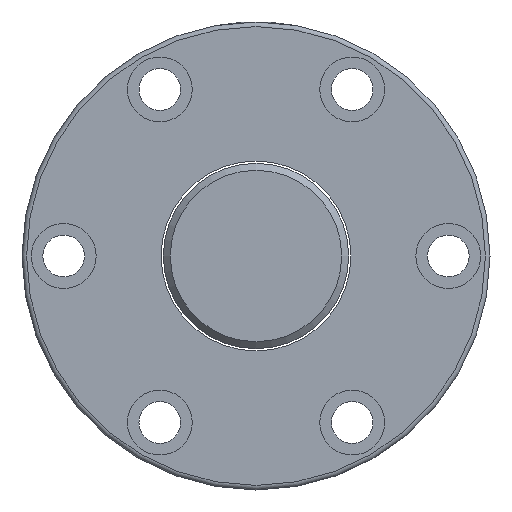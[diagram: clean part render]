
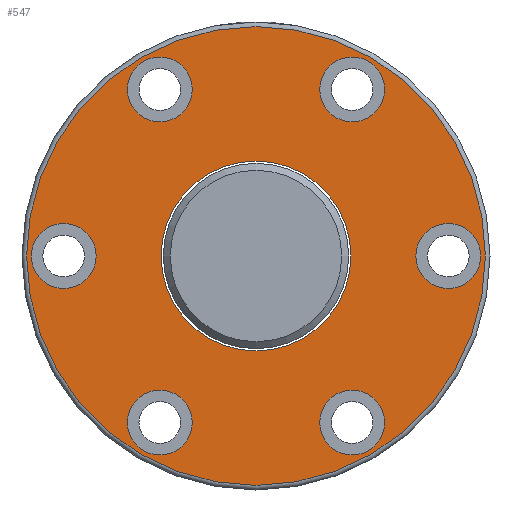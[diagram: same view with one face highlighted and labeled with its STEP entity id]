
A CAD part, left-side view. The second image highlights one B-rep face of the part: STEP entity #547.
In plain terms, the highlighted planar face has unit normal (-1, 0, 0).
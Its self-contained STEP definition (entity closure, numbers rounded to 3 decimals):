
#67=PLANE('',#647);
#139=ORIENTED_EDGE('',*,*,#222,.T.);
#140=ORIENTED_EDGE('',*,*,#215,.T.);
#141=ORIENTED_EDGE('',*,*,#211,.T.);
#142=ORIENTED_EDGE('',*,*,#207,.T.);
#143=ORIENTED_EDGE('',*,*,#203,.T.);
#144=ORIENTED_EDGE('',*,*,#199,.T.);
#145=ORIENTED_EDGE('',*,*,#195,.T.);
#146=ORIENTED_EDGE('',*,*,#223,.F.);
#195=EDGE_CURVE('',#248,#248,#292,.T.);
#199=EDGE_CURVE('',#252,#252,#296,.T.);
#203=EDGE_CURVE('',#256,#256,#300,.T.);
#207=EDGE_CURVE('',#260,#260,#304,.T.);
#211=EDGE_CURVE('',#264,#264,#308,.T.);
#215=EDGE_CURVE('',#268,#268,#312,.T.);
#222=EDGE_CURVE('',#275,#275,#319,.T.);
#223=EDGE_CURVE('',#276,#276,#320,.T.);
#248=VERTEX_POINT('',#884);
#252=VERTEX_POINT('',#895);
#256=VERTEX_POINT('',#906);
#260=VERTEX_POINT('',#917);
#264=VERTEX_POINT('',#928);
#268=VERTEX_POINT('',#939);
#275=VERTEX_POINT('',#959);
#276=VERTEX_POINT('',#962);
#292=CIRCLE('',#598,7.);
#296=CIRCLE('',#605,7.);
#300=CIRCLE('',#612,7.);
#304=CIRCLE('',#619,7.);
#308=CIRCLE('',#626,7.);
#312=CIRCLE('',#633,7.);
#319=CIRCLE('',#646,49.5);
#320=CIRCLE('',#648,20.5);
#384=EDGE_LOOP('',(#139));
#385=EDGE_LOOP('',(#140));
#386=EDGE_LOOP('',(#141));
#387=EDGE_LOOP('',(#142));
#388=EDGE_LOOP('',(#143));
#389=EDGE_LOOP('',(#144));
#390=EDGE_LOOP('',(#145));
#391=EDGE_LOOP('',(#146));
#471=FACE_BOUND('',#384,.T.);
#472=FACE_BOUND('',#385,.T.);
#473=FACE_BOUND('',#386,.T.);
#474=FACE_BOUND('',#387,.T.);
#475=FACE_BOUND('',#388,.T.);
#476=FACE_BOUND('',#389,.T.);
#477=FACE_BOUND('',#390,.T.);
#478=FACE_BOUND('',#391,.T.);
#547=ADVANCED_FACE('',(#471,#472,#473,#474,#475,#476,#477,#478),#67,.T.);
#598=AXIS2_PLACEMENT_3D('',#883,#692,#693);
#605=AXIS2_PLACEMENT_3D('',#894,#706,#707);
#612=AXIS2_PLACEMENT_3D('',#905,#720,#721);
#619=AXIS2_PLACEMENT_3D('',#916,#734,#735);
#626=AXIS2_PLACEMENT_3D('',#927,#748,#749);
#633=AXIS2_PLACEMENT_3D('',#938,#762,#763);
#646=AXIS2_PLACEMENT_3D('',#958,#788,#789);
#647=AXIS2_PLACEMENT_3D('',#960,#790,#791);
#648=AXIS2_PLACEMENT_3D('',#961,#792,#793);
#692=DIRECTION('',(1.,0.,0.));
#693=DIRECTION('',(0.,-0.866,-0.5));
#706=DIRECTION('',(1.,0.,0.));
#707=DIRECTION('',(0.,-0.866,0.5));
#720=DIRECTION('',(1.,0.,0.));
#721=DIRECTION('',(0.,0.,1.));
#734=DIRECTION('',(1.,0.,0.));
#735=DIRECTION('',(0.,0.866,0.5));
#748=DIRECTION('',(1.,0.,0.));
#749=DIRECTION('',(0.,0.866,-0.5));
#762=DIRECTION('',(1.,0.,0.));
#763=DIRECTION('',(0.,0.,-1.));
#788=DIRECTION('',(-1.,0.,0.));
#789=DIRECTION('',(0.,0.,1.));
#790=DIRECTION('',(-1.,0.,0.));
#791=DIRECTION('',(0.,0.,1.));
#792=DIRECTION('',(-1.,0.,0.));
#793=DIRECTION('',(0.,0.,1.));
#883=CARTESIAN_POINT('',(-59.,-20.75,-35.94));
#884=CARTESIAN_POINT('',(-59.,-26.812,-39.44));
#894=CARTESIAN_POINT('',(-59.,-41.5,0.));
#895=CARTESIAN_POINT('',(-59.,-47.562,3.5));
#905=CARTESIAN_POINT('',(-59.,-20.75,35.94));
#906=CARTESIAN_POINT('',(-59.,-20.75,42.94));
#916=CARTESIAN_POINT('',(-59.,20.75,35.94));
#917=CARTESIAN_POINT('',(-59.,26.812,39.44));
#927=CARTESIAN_POINT('',(-59.,41.5,0.));
#928=CARTESIAN_POINT('',(-59.,47.562,-3.5));
#938=CARTESIAN_POINT('',(-59.,20.75,-35.94));
#939=CARTESIAN_POINT('',(-59.,20.75,-42.94));
#958=CARTESIAN_POINT('',(-59.,0.,0.));
#959=CARTESIAN_POINT('',(-59.,0.,49.5));
#960=CARTESIAN_POINT('',(-59.,23.,0.));
#961=CARTESIAN_POINT('',(-59.,0.,0.));
#962=CARTESIAN_POINT('',(-59.,0.,20.5));
